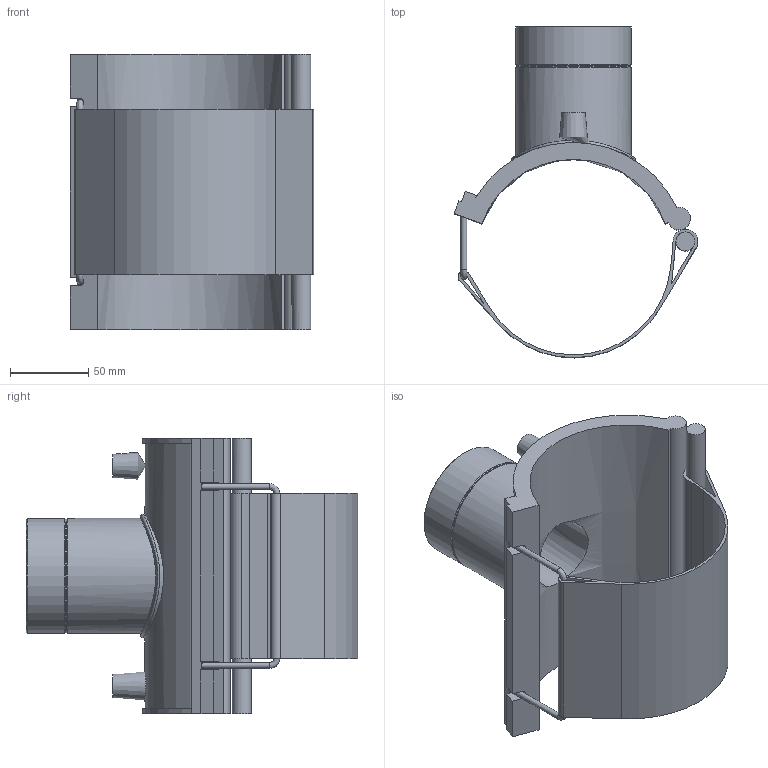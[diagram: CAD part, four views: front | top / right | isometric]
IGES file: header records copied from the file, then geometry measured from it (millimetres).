
Global section: file name: 493804125020.ipt; native system: Autodesk Inventor 2015; preprocessor: unknown; author: KIM; date: 20171106.094106; units: millimetre
Bounding box: 155.89 x 212.25 x 176 mm (x, y, z)
Volume: 560094.9 mm3; surface area: 172553.5 mm2
Topology: 2 solids, 2 shells, 80 faces, 200 edges, 128 vertices
Faces by surface type: plane 44, cylinder 19, revolution 11, cone 5, bspline 1
Full cylindrical faces by diameter (mm): 3.75 x2, 4 x2, 12.115 x1, 72.653 x1, 73.653 x2, 79.318 x1
